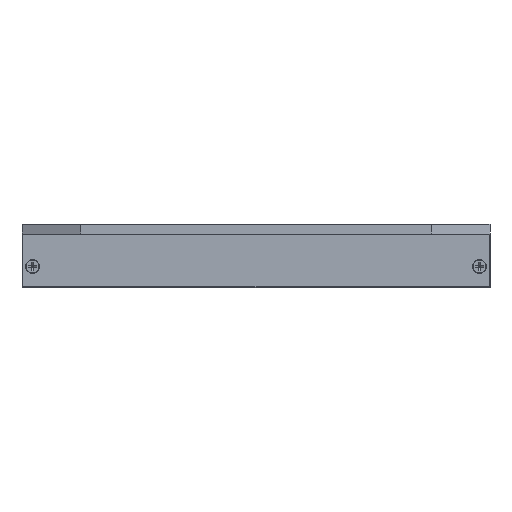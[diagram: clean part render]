
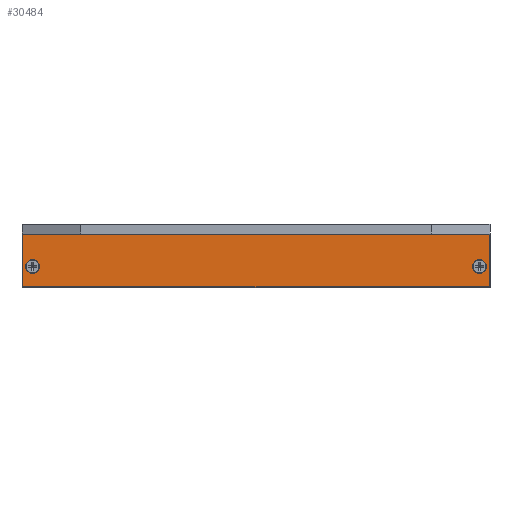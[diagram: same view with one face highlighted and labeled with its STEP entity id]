
A CAD part, front view. The second image highlights one B-rep face of the part: STEP entity #30484.
In plain terms, the highlighted planar face has unit normal (0, -1, 0).
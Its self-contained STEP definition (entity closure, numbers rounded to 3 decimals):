
#4823=DIRECTION('',(-1.,0.,0.));
#4824=VECTOR('',#4823,132.6);
#4825=CARTESIAN_POINT('',(66.3,-66.5,0.));
#4826=LINE('',#4825,#4824);
#8897=DIRECTION('',(-1.,0.,0.));
#8898=VECTOR('',#8897,132.6);
#8899=CARTESIAN_POINT('',(66.3,-66.5,-14.8));
#8900=LINE('',#8899,#8898);
#8913=CARTESIAN_POINT('',(-63.5,-66.5,-9.));
#8914=DIRECTION('',(0.,1.,0.));
#8915=DIRECTION('',(0.,0.,1.));
#8916=AXIS2_PLACEMENT_3D('',#8913,#8914,#8915);
#8918=CARTESIAN_POINT('',(-63.5,-66.5,-9.));
#8919=DIRECTION('',(0.,1.,0.));
#8920=DIRECTION('',(0.,0.,-1.));
#8921=AXIS2_PLACEMENT_3D('',#8918,#8919,#8920);
#8923=CARTESIAN_POINT('',(63.5,-66.5,-9.));
#8924=DIRECTION('',(0.,1.,0.));
#8925=DIRECTION('',(0.,0.,-1.));
#8926=AXIS2_PLACEMENT_3D('',#8923,#8924,#8925);
#8928=CARTESIAN_POINT('',(63.5,-66.5,-9.));
#8929=DIRECTION('',(0.,1.,0.));
#8930=DIRECTION('',(0.,0.,1.));
#8931=AXIS2_PLACEMENT_3D('',#8928,#8929,#8930);
#8933=DIRECTION('',(0.,0.,1.));
#8934=VECTOR('',#8933,14.8);
#8935=CARTESIAN_POINT('',(66.3,-66.5,-14.8));
#8936=LINE('',#8935,#8934);
#8937=DIRECTION('',(0.,0.,-1.));
#8938=VECTOR('',#8937,14.8);
#8939=CARTESIAN_POINT('',(-66.3,-66.5,0.));
#8940=LINE('',#8939,#8938);
#13959=CARTESIAN_POINT('',(-66.3,-66.5,-14.8));
#13960=VERTEX_POINT('',#13959);
#13961=CARTESIAN_POINT('',(66.3,-66.5,-14.8));
#13962=VERTEX_POINT('',#13961);
#13963=CARTESIAN_POINT('',(63.5,-66.5,-7.));
#13964=CARTESIAN_POINT('',(63.5,-66.5,-11.));
#13965=VERTEX_POINT('',#13963);
#13966=VERTEX_POINT('',#13964);
#13967=CARTESIAN_POINT('',(-63.5,-66.5,-11.));
#13968=CARTESIAN_POINT('',(-63.5,-66.5,-7.));
#13969=VERTEX_POINT('',#13967);
#13970=VERTEX_POINT('',#13968);
#16897=CARTESIAN_POINT('',(-66.3,-66.5,0.));
#16899=VERTEX_POINT('',#16897);
#16901=CARTESIAN_POINT('',(66.3,-66.5,0.));
#16903=VERTEX_POINT('',#16901);
#30460=CARTESIAN_POINT('',(-66.5,-66.5,-15.));
#30461=DIRECTION('',(0.,-1.,0.));
#30462=DIRECTION('',(0.,0.,1.));
#30463=AXIS2_PLACEMENT_3D('',#30460,#30461,#30462);
#30464=PLANE('',#30463);
#30465=ORIENTED_EDGE('',*,*,#30455,.F.);
#30466=ORIENTED_EDGE('',*,*,#30425,.T.);
#30468=ORIENTED_EDGE('',*,*,#30467,.F.);
#30469=ORIENTED_EDGE('',*,*,#24389,.F.);
#30470=EDGE_LOOP('',(#30465,#30466,#30468,#30469));
#30471=FACE_OUTER_BOUND('',#30470,.F.);
#30473=ORIENTED_EDGE('',*,*,#30472,.F.);
#30475=ORIENTED_EDGE('',*,*,#30474,.F.);
#30476=EDGE_LOOP('',(#30473,#30475));
#30477=FACE_BOUND('',#30476,.F.);
#30479=ORIENTED_EDGE('',*,*,#30478,.F.);
#30481=ORIENTED_EDGE('',*,*,#30480,.F.);
#30482=EDGE_LOOP('',(#30479,#30481));
#30483=FACE_BOUND('',#30482,.F.);
#8917=CIRCLE('',#8916,2.);
#8922=CIRCLE('',#8921,2.);
#8927=CIRCLE('',#8926,2.);
#8932=CIRCLE('',#8931,2.);
#24389=EDGE_CURVE('',#16903,#16899,#4826,.T.);
#30425=EDGE_CURVE('',#13962,#13960,#8900,.T.);
#30455=EDGE_CURVE('',#13962,#16903,#8936,.T.);
#30467=EDGE_CURVE('',#16899,#13960,#8940,.T.);
#30472=EDGE_CURVE('',#13966,#13965,#8927,.T.);
#30474=EDGE_CURVE('',#13965,#13966,#8932,.T.);
#30478=EDGE_CURVE('',#13970,#13969,#8917,.T.);
#30480=EDGE_CURVE('',#13969,#13970,#8922,.T.);
#30484=ADVANCED_FACE('',(#30471,#30477,#30483),#30464,.T.);
